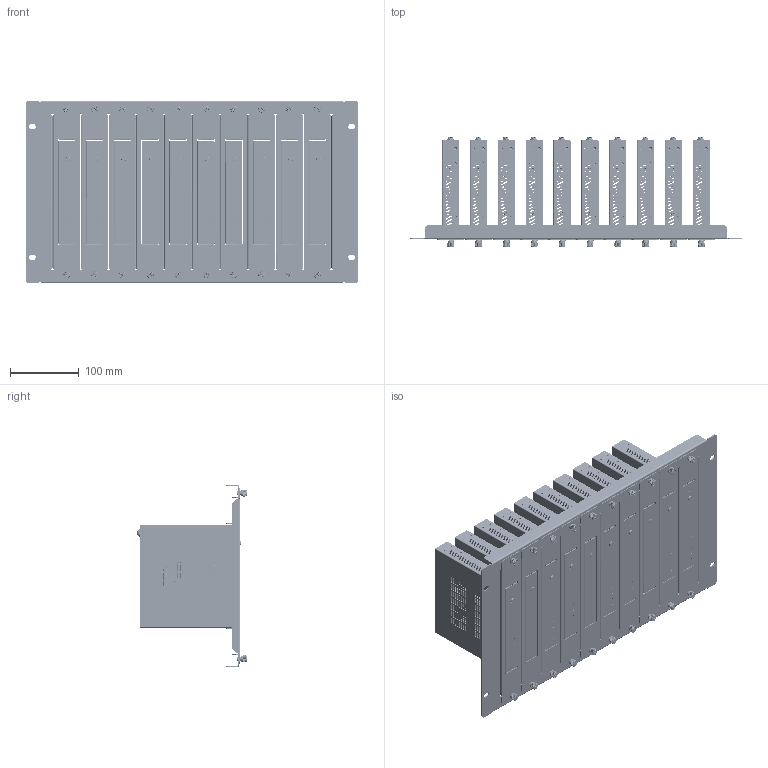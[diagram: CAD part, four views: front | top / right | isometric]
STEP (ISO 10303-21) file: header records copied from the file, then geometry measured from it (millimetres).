
FILE_DESCRIPTION((''),'2;1');
FILE_NAME('0_PJ-N018-000_ASM_5_1_ASM','2023-06-05T17:29:53',('Proitav'),(''),'CREO PARAMETRIC BY PTC INC, 2018050','CREO PARAMETRIC BY PTC INC, 2018050','');
FILE_SCHEMA(('CONFIG_CONTROL_DESIGN','GEOMETRIC_VALIDATION_PROPERTIES_MIM'));
Products named in the file (54): PJ-N018-S00-6U_2_1; S-M3-1_1_1; PJ-N018-S00-6U_ASM_2_1_ASM; IPD6000LASC-A20-MIANBAN_3_1; 4C-PH-M3-2P0_SCREW_NONE_2_1; 4C-PH-M3-2P0_CAP_NONE_2_1_2_1; 4C-PH-M3-2P0_CAP_NONE_2_1_2_2; 4C-PH-M3-2P0_CAP_NONE_2_1_2_ASM; 4C-PH-M3-2P0_FERRULE_NONE_1_1; 4C-PH-M3-2P0-K000_NONE_ASM_1_1_ASM; IPD6000LASC-A20-MIANBAN_ASM_1_1_ASM; IP6000LAS-D50-BASE_68_2; BSO-M3-5_5_1; BSO-M3-10_3_2; IP6000LAS-D50-BASE_ASM_25_ASM_1_ASM; IPD6000LAS-D50-COVER_83_4; IPD6000LAS-D50-COVER_ASM_6_ASM__ASM; IPD6000LAS-000-PCB_69_1; DC_H0100DC001200_5_1_1; DC_H0100DC001200_5_2_1; DC_H0100DC001200_5_3_1; DC_H0100DC001200_5_ASM_1_ASM; DC_GASKET_3_1; DC_NUT_3_1; DC_SCREW_ASM_3_ASM_1_ASM; HDMI_H000019PFS000_4_1; RJ45_H0600AQXN3F13_3_1_1; RJ45_H0600AQXN3F13_3_2_1; RJ45_H0600AQXN3F13_3_3_1; RJ45_H0600AQXN3F13_3_4_1; RJ45_H0600AQXN3F13_3_5_1; RJ45_H0600AQXN3F13_3_6_1; RJ45_H0600AQXN3F13_3_7_1; RJ45_H0600AQXN3F13_3_ASM_1_ASM; IR_H0400PJ301100_3_1; RJ45_H060097428800_4_1; LED_TIEPIAN_3_1; KFC_M0800GB169700_3_1; KFC_J0201V0730600_3_1; LIANJIEQI-MUTOU_3_1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
Assembly tree (111 placements, depth 6):
  0_PJ-N018-000_ASM_5_1_ASM
    PJ-N018-S00-6U_ASM_2_1_ASM
      PJ-N018-S00-6U_2_1
      S-M3-1_1_1  x20
    IPD6000LASC-A20-MIANBAN_ASM_1_1_ASM  x10
      IPD6000LASC-A20-MIANBAN_3_1
      4C-PH-M3-2P0-K000_NONE_ASM_1_1_ASM
        4C-PH-M3-2P0_SCREW_NONE_2_1
        4C-PH-M3-2P0_CAP_NONE_2_1_2_ASM
          4C-PH-M3-2P0_CAP_NONE_2_1_2_1
          4C-PH-M3-2P0_CAP_NONE_2_1_2_2
        4C-PH-M3-2P0_FERRULE_NONE_1_1
    00_IPD6000LAS-D50_ASM_14_ASM_3_ASM  x10
      IP6000LAS-D50-BASE_ASM_25_ASM_1_ASM
        IP6000LAS-D50-BASE_68_2
        BSO-M3-5_5_1  x5
        BSO-M3-10_3_2
      IPD6000LAS-D50-COVER_ASM_6_ASM__ASM
        IPD6000LAS-D50-COVER_83_4
      IPD6000LAS-000-PCB_ASM_73_ASM_2_ASM
        IPD6000LAS-000-PCB_69_1
        DC_SCREW_ASM_3_ASM_1_ASM
          DC_H0100DC001200_5_ASM_1_ASM
            DC_H0100DC001200_5_1_1
            DC_H0100DC001200_5_2_1
            DC_H0100DC001200_5_3_1
          DC_GASKET_3_1
          DC_NUT_3_1
        HDMI_H000019PFS000_4_1
        RJ45_H0600AQXN3F13_3_ASM_1_ASM
          RJ45_H0600AQXN3F13_3_1_1
          RJ45_H0600AQXN3F13_3_2_1
          RJ45_H0600AQXN3F13_3_3_1
          RJ45_H0600AQXN3F13_3_4_1
          RJ45_H0600AQXN3F13_3_5_1
          RJ45_H0600AQXN3F13_3_6_1
          RJ45_H0600AQXN3F13_3_7_1
        IR_H0400PJ301100_3_1  x3
        RJ45_H060097428800_4_1
        LED_TIEPIAN_3_1  x6
        KFC_M0800GB169700_3_1
        KFC_J0201V0730600_3_1
        LIANJIEQI-MUTOU_3_1  x2
        KK-TH_ASM_3_ASM_1_ASM  x4
          JIAODING_3_1
          TANHUANG_3_1
        352314-SRP_4_1
        484514-SRP_3_1
        J110118181300_4_1
        J110113131400_2_1  x2
        20X20X4_5_1_1  x5
        PHOENIX3-3_5_H140310FHD000_1_1
        FANM-ZUO_1_1
      XIAO-PCB_3_1
Bounding box: 483 x 158.94 x 265.9 mm (x, y, z)
Volume: 1645002.8 mm3; surface area: 2405240.3 mm2
Topology: 681 solids, 681 shells, 56144 faces, 163538 edges, 109376 vertices
Faces by surface type: plane 33722, cylinder 14730, torus 3320, cone 2720, bspline 902, sphere 500, extrusion 210, revolution 40
Entity records: 241771 total; most frequent: CARTESIAN_POINT 75836, ORIENTED_EDGE 27724, DIRECTION 27210, EDGE_CURVE 13862, VERTEX_POINT 9339, AXIS2_PLACEMENT_3D 9137, VECTOR 8932, LINE 8911
